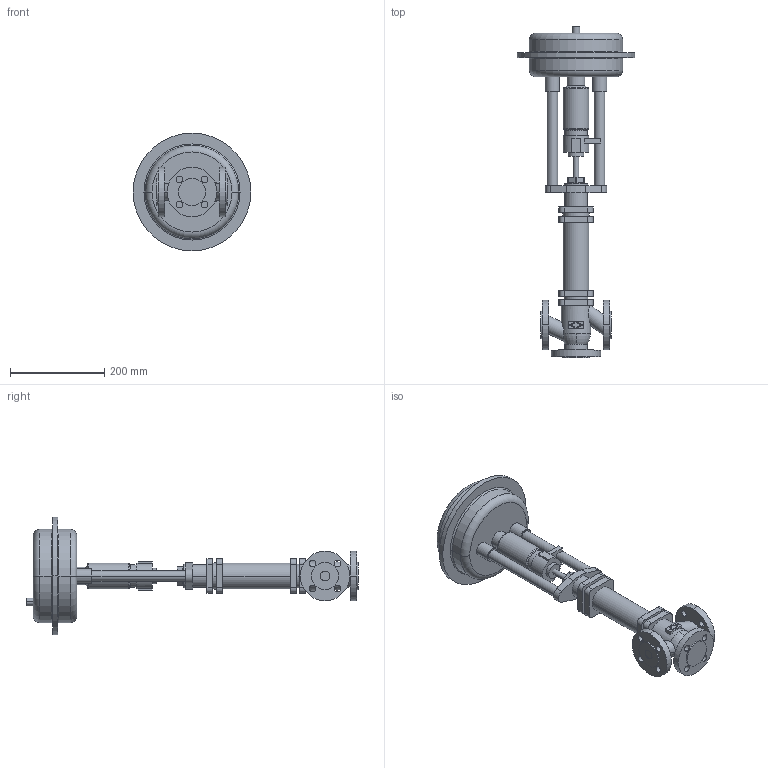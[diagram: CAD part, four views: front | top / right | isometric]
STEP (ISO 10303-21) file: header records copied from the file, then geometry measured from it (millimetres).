
FILE_DESCRIPTION(('OneSpaceDesigner STEP Export'),'2;1');
FILE_NAME('c000000428.stp','2006-09-20T 9:58:13',(''),(''),'OneSpace Designer STEP processor for AP214 (Solid Model)','OneSpace Designer 13.20A 18-Aug-2005 (C) CoCreate Software GmbH','');
FILE_SCHEMA(('AUTOMOTIVE_DESIGN { 1 0 10303 214 1 1 1 1 }'));
Length unit declared in the file: millimetre
Products named in the file (2): 1; 2
Bounding box: 250 x 705 x 250 mm (x, y, z)
Volume: 5037682 mm3; surface area: 393936.2 mm2
Topology: 2 solids, 2 shells, 236 faces, 575 edges, 378 vertices
Faces by surface type: cylinder 114, plane 100, torus 18, cone 4
Entity records: 6417 total; most frequent: CARTESIAN_POINT 1164, ORIENTED_EDGE 1150, DIRECTION 994, EDGE_CURVE 575, VERTEX_POINT 378, AXIS2_PLACEMENT_3D 356, EDGE_LOOP 295, VECTOR 282
